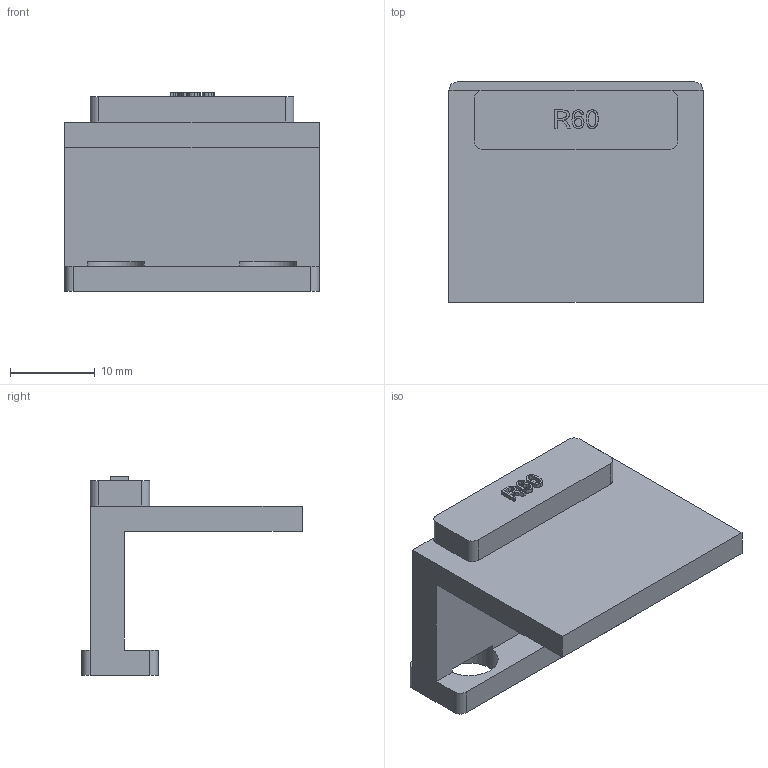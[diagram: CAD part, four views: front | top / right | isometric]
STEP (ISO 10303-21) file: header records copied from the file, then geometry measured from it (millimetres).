
FILE_DESCRIPTION(('Open CASCADE Model'),'2;1');
FILE_NAME('Open CASCADE Shape Model','1970-01-01T00:00:00',('Author'),( 'Open CASCADE'),'Open CASCADE STEP processor 7.8','Open CASCADE 7.8' ,'Unknown');
FILE_SCHEMA(('AUTOMOTIVE_DESIGN { 1 0 10303 214 1 1 1 1 }'));
Length unit declared in the file: millimetre
Products named in the file (2): Open CASCADE STEP translator 7.8 12; R60 support ceiling
Assembly tree (1 placements, depth 2):
  Open CASCADE STEP translator 7.8 12
    R60 support ceiling
Bounding box: 30 x 26 x 23.48 mm (x, y, z)
Volume: 5001.5 mm3; surface area: 3580.8 mm2
Topology: 1 solids, 1 shells, 109 faces, 307 edges, 204 vertices
Faces by surface type: extrusion 63, plane 36, cylinder 10
Full cylindrical faces by diameter (mm): 6.8 x2
Entity records: 8606 total; most frequent: CARTESIAN_POINT 3069, DIRECTION 740, ORIENTED_EDGE 614, PCURVE 614, DEFINITIONAL_REPRESENTATION 614, VECTOR 576, LINE 513, B_SPLINE_CURVE_WITH_KNOTS 423
